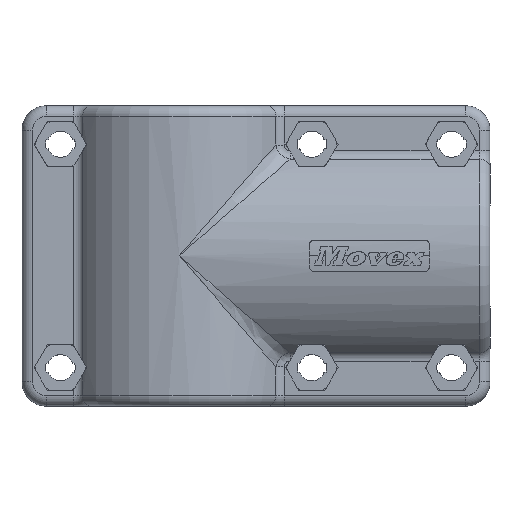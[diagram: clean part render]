
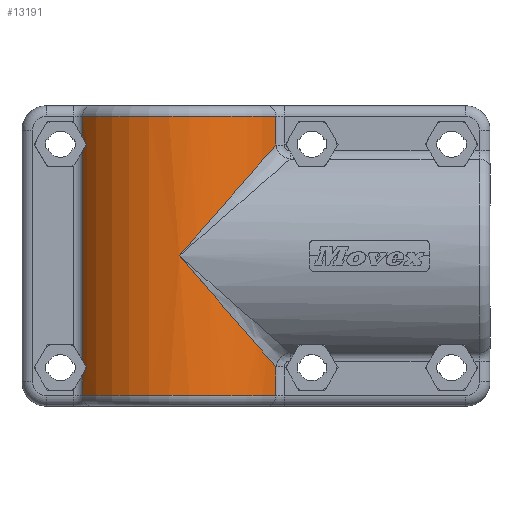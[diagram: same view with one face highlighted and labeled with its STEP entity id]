
A CAD part, top view. The second image highlights one B-rep face of the part: STEP entity #13191.
In plain terms, the highlighted cylindrical face has radius 34 mm (diameter 68 mm), a partial arc.
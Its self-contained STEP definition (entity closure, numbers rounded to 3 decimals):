
#7799=EDGE_CURVE('',#21593,#21594,#21595,.F.);
#10515=EDGE_CURVE('',#24636,#19208,#25882,.T.);
#10581=EDGE_CURVE('',#25978,#25247,#25979,.F.);
#11111=EDGE_CURVE('',#25978,#26744,#26745,.T.);
#11689=EDGE_CURVE('',#21593,#24147,#27558,.F.);
#13003=EDGE_CURVE('',#29318,#29319,#29320,.T.);
#13191=ADVANCED_FACE('',(#29564),#29565,.T.);
#13901=EDGE_CURVE('',#29318,#24636,#30462,.F.);
#15013=EDGE_CURVE('',#24147,#25247,#31836,.F.);
#15073=EDGE_CURVE('',#21489,#21594,#31907,.F.);
#16647=EDGE_CURVE('',#26744,#31525,#33790,.F.);
#16673=EDGE_CURVE('',#20063,#21489,#33821,.F.);
#18583=EDGE_CURVE('',#20063,#19208,#36005,.T.);
#18923=EDGE_CURVE('',#31525,#29319,#36384,.T.);
#19208=VERTEX_POINT('',#36843);
#20063=VERTEX_POINT('',#38247);
#21489=VERTEX_POINT('',#40653);
#21593=VERTEX_POINT('',#40830);
#21594=VERTEX_POINT('',#40831);
#21595=LINE('',#40832,#40833);
#24147=VERTEX_POINT('',#45067);
#24636=VERTEX_POINT('',#45932);
#25247=VERTEX_POINT('',#46950);
#25882=B_SPLINE_CURVE_WITH_KNOTS('',5,(#48075,#48076,#48077,#48078,#48079,#48080),.UNSPECIFIED.,.F.,.F.,(6,6),(0.,3.986),.UNSPECIFIED.);
#25978=VERTEX_POINT('',#48252);
#25979=LINE('',#48253,#48254);
#26744=VERTEX_POINT('',#49673);
#26745=CIRCLE('',#49674,34.0);
#27558=B_SPLINE_CURVE_WITH_KNOTS('',5,(#51115,#51116,#51117,#51118,#51119,#51120,#51121,#51122,#51123,#51124,#51125,#51126,#51127,#51128,#51129),.UNSPECIFIED.,.F.,.F.,(6,3,3,3,6),(0.0,2.528,30.898,52.763,64.247),.UNSPECIFIED.);
#29318=VERTEX_POINT('',#54527);
#29319=VERTEX_POINT('',#54528);
#29320=B_SPLINE_CURVE_WITH_KNOTS('',5,(#54529,#54530,#54531,#54532,#54533,#54534),.UNSPECIFIED.,.F.,.F.,(6,6),(0.0,3.986),.UNSPECIFIED.);
#29564=FACE_OUTER_BOUND('',#55036,.T.);
#29565=CYLINDRICAL_SURFACE('',#55037,34.0);
#30462=LINE('',#56742,#56743);
#31525=VERTEX_POINT('',#58876);
#31836=B_SPLINE_CURVE_WITH_KNOTS('',5,(#59439,#59440,#59441,#59442,#59443,#59444,#59445,#59446,#59447,#59448,#59449,#59450,#59451,#59452,#59453),.UNSPECIFIED.,.F.,.F.,(6,3,3,3,6),(23.422,41.302,68.836,85.131,87.659),.UNSPECIFIED.);
#31907=CIRCLE('',#59592,34.0);
#33790=LINE('',#63306,#63307);
#33821=LINE('',#63357,#63358);
#36005=B_SPLINE_CURVE_WITH_KNOTS('',5,(#67716,#67717,#67718,#67719,#67720,#67721),.UNSPECIFIED.,.F.,.F.,(6,6),(0.0,3.986),.UNSPECIFIED.);
#36384=B_SPLINE_CURVE_WITH_KNOTS('',5,(#68486,#68487,#68488,#68489,#68490,#68491),.UNSPECIFIED.,.F.,.F.,(6,6),(0.0,3.986),.UNSPECIFIED.);
#36843=CARTESIAN_POINT('',(-26.494,-32.,86.037));
#38247=CARTESIAN_POINT('',(-27.671,-34.037,84.485));
#40653=CARTESIAN_POINT('',(-27.671,-40.,84.485));
#40830=CARTESIAN_POINT('',(27.671,-31.74,84.485));
#40831=CARTESIAN_POINT('',(27.671,-40.,84.485));
#40832=CARTESIAN_POINT('',(27.671,0.,84.485));
#40833=VECTOR('',#70790,1.0);
#45067=CARTESIAN_POINT('',(0.,0.,98.729));
#45932=CARTESIAN_POINT('',(-27.671,-29.963,84.485));
#46950=CARTESIAN_POINT('',(27.671,31.74,84.485));
#48075=CARTESIAN_POINT('',(-27.671,-29.963,84.485));
#48076=CARTESIAN_POINT('',(-27.44,-30.362,84.809));
#48077=CARTESIAN_POINT('',(-27.207,-30.766,85.125));
#48078=CARTESIAN_POINT('',(-26.971,-31.174,85.436));
#48079=CARTESIAN_POINT('',(-26.734,-31.585,85.739));
#48080=CARTESIAN_POINT('',(-26.494,-32.,86.037));
#48252=CARTESIAN_POINT('',(27.671,40.,84.485));
#48253=CARTESIAN_POINT('',(27.671,0.,84.485));
#48254=VECTOR('',#75402,1.0);
#49673=CARTESIAN_POINT('',(-27.671,40.,84.485));
#49674=AXIS2_PLACEMENT_3D('',#76195,#76196,#76197);
#51115=CARTESIAN_POINT('',(0.0,0.,98.729));
#51116=CARTESIAN_POINT('',(0.235,-0.269,98.729));
#51117=CARTESIAN_POINT('',(0.47,-0.539,98.727));
#51118=CARTESIAN_POINT('',(0.705,-0.809,98.723));
#51119=CARTESIAN_POINT('',(3.576,-4.102,98.648));
#51120=CARTESIAN_POINT('',(6.442,-7.39,98.27));
#51121=CARTESIAN_POINT('',(9.056,-10.388,97.666));
#51122=CARTESIAN_POINT('',(13.626,-15.63,96.125));
#51123=CARTESIAN_POINT('',(18.019,-20.669,93.686));
#51124=CARTESIAN_POINT('',(19.887,-22.811,92.446));
#51125=CARTESIAN_POINT('',(22.645,-25.975,90.263));
#51126=CARTESIAN_POINT('',(25.206,-28.913,87.6));
#51127=CARTESIAN_POINT('',(26.061,-29.894,86.624));
#51128=CARTESIAN_POINT('',(26.885,-30.839,85.586));
#51129=CARTESIAN_POINT('',(27.671,-31.74,84.485));
#54527=CARTESIAN_POINT('',(-27.671,29.963,84.485));
#54528=CARTESIAN_POINT('',(-26.494,32.,86.037));
#54529=CARTESIAN_POINT('',(-27.671,29.963,84.485));
#54530=CARTESIAN_POINT('',(-27.44,30.362,84.809));
#54531=CARTESIAN_POINT('',(-27.207,30.766,85.125));
#54532=CARTESIAN_POINT('',(-26.971,31.174,85.436));
#54533=CARTESIAN_POINT('',(-26.734,31.585,85.739));
#54534=CARTESIAN_POINT('',(-26.494,32.,86.037));
#55036=EDGE_LOOP('',(#79543,#79544,#79545,#79546,#79547,#79548,#79549,#79550,#79551,#79552,#79553,#79554,#79555));
#55037=AXIS2_PLACEMENT_3D('',#79556,#79557,#79558);
#56742=CARTESIAN_POINT('',(-27.671,0.,84.485));
#56743=VECTOR('',#80804,1.0);
#58876=CARTESIAN_POINT('',(-27.671,34.037,84.485));
#59439=CARTESIAN_POINT('',(27.671,31.74,84.485));
#59440=CARTESIAN_POINT('',(26.447,30.336,86.199));
#59441=CARTESIAN_POINT('',(25.131,28.826,87.762));
#59442=CARTESIAN_POINT('',(23.746,27.238,89.178));
#59443=CARTESIAN_POINT('',(20.095,23.05,92.422));
#59444=CARTESIAN_POINT('',(16.164,18.541,94.83));
#59445=CARTESIAN_POINT('',(13.717,15.734,96.01));
#59446=CARTESIAN_POINT('',(9.75,11.184,97.472));
#59447=CARTESIAN_POINT('',(5.71,6.55,98.298));
#59448=CARTESIAN_POINT('',(4.201,4.819,98.519));
#59449=CARTESIAN_POINT('',(2.454,2.815,98.677));
#59450=CARTESIAN_POINT('',(0.705,0.809,98.723));
#59451=CARTESIAN_POINT('',(0.47,0.539,98.727));
#59452=CARTESIAN_POINT('',(0.235,0.269,98.729));
#59453=CARTESIAN_POINT('',(0.0,0.,98.729));
#59592=AXIS2_PLACEMENT_3D('',#82475,#82476,#82477);
#63306=CARTESIAN_POINT('',(-27.671,0.,84.485));
#63307=VECTOR('',#85057,1.0);
#63357=CARTESIAN_POINT('',(-27.671,0.,84.485));
#63358=VECTOR('',#85103,1.0);
#67716=CARTESIAN_POINT('',(-27.671,-34.037,84.485));
#67717=CARTESIAN_POINT('',(-27.44,-33.638,84.809));
#67718=CARTESIAN_POINT('',(-27.207,-33.234,85.125));
#67719=CARTESIAN_POINT('',(-26.971,-32.826,85.436));
#67720=CARTESIAN_POINT('',(-26.734,-32.415,85.739));
#67721=CARTESIAN_POINT('',(-26.494,-32.,86.037));
#68486=CARTESIAN_POINT('',(-27.671,34.037,84.485));
#68487=CARTESIAN_POINT('',(-27.44,33.638,84.809));
#68488=CARTESIAN_POINT('',(-27.207,33.234,85.125));
#68489=CARTESIAN_POINT('',(-26.971,32.826,85.436));
#68490=CARTESIAN_POINT('',(-26.734,32.415,85.739));
#68491=CARTESIAN_POINT('',(-26.494,32.,86.037));
#70790=DIRECTION('',(0.,1.0,0.));
#75402=DIRECTION('',(0.,1.0,0.));
#76195=CARTESIAN_POINT('',(0.,40.,64.729));
#76196=DIRECTION('',(0.,-1.0,0.));
#76197=DIRECTION('',(1.0,0.,0.));
#79543=ORIENTED_EDGE('',*,*,#16647,.T.);
#79544=ORIENTED_EDGE('',*,*,#18923,.T.);
#79545=ORIENTED_EDGE('',*,*,#13003,.F.);
#79546=ORIENTED_EDGE('',*,*,#13901,.T.);
#79547=ORIENTED_EDGE('',*,*,#10515,.T.);
#79548=ORIENTED_EDGE('',*,*,#18583,.F.);
#79549=ORIENTED_EDGE('',*,*,#16673,.T.);
#79550=ORIENTED_EDGE('',*,*,#15073,.T.);
#79551=ORIENTED_EDGE('',*,*,#7799,.F.);
#79552=ORIENTED_EDGE('',*,*,#11689,.T.);
#79553=ORIENTED_EDGE('',*,*,#15013,.T.);
#79554=ORIENTED_EDGE('',*,*,#10581,.F.);
#79555=ORIENTED_EDGE('',*,*,#11111,.T.);
#79556=CARTESIAN_POINT('',(0.,0.,64.729));
#79557=DIRECTION('',(0.,-1.0,0.));
#79558=DIRECTION('',(-1.0,0.,0.));
#80804=DIRECTION('',(0.,1.0,0.));
#82475=CARTESIAN_POINT('',(0.,-40.,64.729));
#82476=DIRECTION('',(0.,-1.0,0.));
#82477=DIRECTION('',(1.0,0.,0.));
#85057=DIRECTION('',(0.,1.0,0.));
#85103=DIRECTION('',(0.,1.0,0.));
